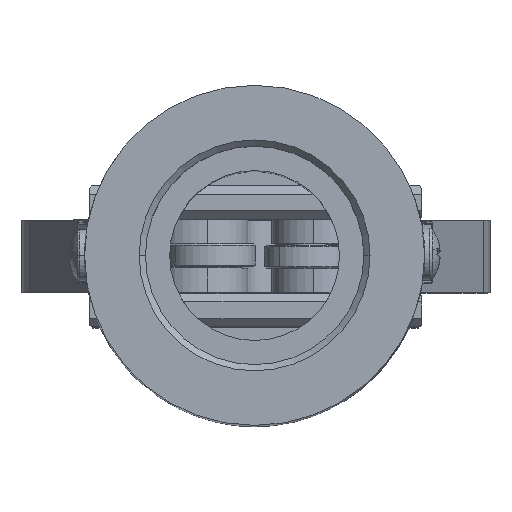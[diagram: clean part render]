
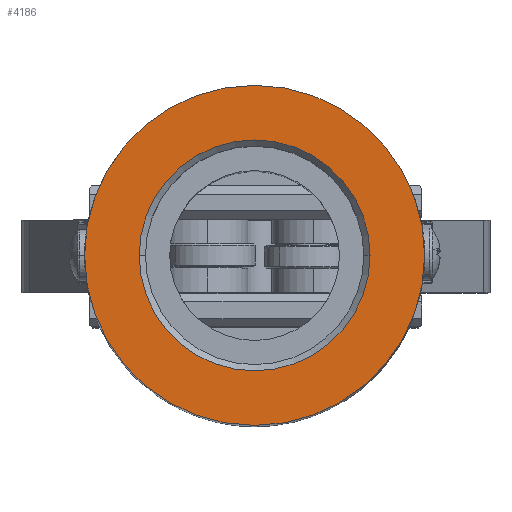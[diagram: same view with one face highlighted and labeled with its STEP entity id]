
A CAD part, top view. The second image highlights one B-rep face of the part: STEP entity #4186.
In plain terms, the highlighted planar face has unit normal (0, 0, 1).
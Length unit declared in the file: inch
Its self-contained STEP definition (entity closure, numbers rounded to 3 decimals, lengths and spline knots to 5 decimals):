
#67 = CARTESIAN_POINT ( 'NONE',  ( 0., 0., 4.156 ) ) ;
#68 = CIRCLE ( 'NONE', #76, 0.875 ) ;
#74 = DIRECTION ( 'NONE',  ( 1., 0., 0. ) ) ;
#75 = DIRECTION ( 'NONE',  ( 0., 0., 1. ) ) ;
#76 = AXIS2_PLACEMENT_3D ( 'NONE', #67, #75, #74 ) ;
#3564 = EDGE_CURVE ( 'NONE', #3981, #3985, #68, .T. ) ;
#3879 = VERTEX_POINT ( 'NONE', #9399 ) ;
#3894 = EDGE_CURVE ( 'NONE', #3879, #3913, #9494, .T. ) ;
#3913 = VERTEX_POINT ( 'NONE', #9468 ) ;
#3981 = VERTEX_POINT ( 'NONE', #9794 ) ;
#3985 = VERTEX_POINT ( 'NONE', #9802 ) ;
#4037 = EDGE_CURVE ( 'NONE', #3913, #3879, #8977, .T. ) ;
#4038 = EDGE_LOOP ( 'NONE', ( #4039, #4383 ) ) ;
#4039 = ORIENTED_EDGE ( 'NONE', *, *, #4100, .T. ) ;
#4100 = EDGE_CURVE ( 'NONE', #3985, #3981, #9466, .T. ) ;
#4186 = ADVANCED_FACE ( 'NONE', ( #9978, #9977 ), #9975, .T. ) ;
#4328 = EDGE_LOOP ( 'NONE', ( #4404, #4405 ) ) ;
#4383 = ORIENTED_EDGE ( 'NONE', *, *, #3564, .T. ) ;
#4404 = ORIENTED_EDGE ( 'NONE', *, *, #3894, .T. ) ;
#4405 = ORIENTED_EDGE ( 'NONE', *, *, #4037, .T. ) ;
#8947 = DIRECTION ( 'NONE',  ( 1., 0., 0. ) ) ;
#8948 = DIRECTION ( 'NONE',  ( 0., 0., -1. ) ) ;
#8949 = CARTESIAN_POINT ( 'NONE',  ( 0., 0., 4.156 ) ) ;
#8950 = AXIS2_PLACEMENT_3D ( 'NONE', #8949, #8948, #8947 ) ;
#8977 = CIRCLE ( 'NONE', #8950, 0.594 ) ;
#9399 = CARTESIAN_POINT ( 'NONE',  ( 0.594, 0., 4.156 ) ) ;
#9462 = DIRECTION ( 'NONE',  ( 1., 0., 0. ) ) ;
#9463 = DIRECTION ( 'NONE',  ( 0., 0., 1. ) ) ;
#9464 = CARTESIAN_POINT ( 'NONE',  ( 0., 0., 4.156 ) ) ;
#9465 = AXIS2_PLACEMENT_3D ( 'NONE', #9464, #9463, #9462 ) ;
#9466 = CIRCLE ( 'NONE', #9465, 0.875 ) ;
#9468 = CARTESIAN_POINT ( 'NONE',  ( -0.594, 0., 4.156 ) ) ;
#9490 = DIRECTION ( 'NONE',  ( 1., 0., 0. ) ) ;
#9491 = DIRECTION ( 'NONE',  ( 0., 0., -1. ) ) ;
#9492 = CARTESIAN_POINT ( 'NONE',  ( 0., 0., 4.156 ) ) ;
#9493 = AXIS2_PLACEMENT_3D ( 'NONE', #9492, #9491, #9490 ) ;
#9494 = CIRCLE ( 'NONE', #9493, 0.594 ) ;
#9794 = CARTESIAN_POINT ( 'NONE',  ( 0.875, 0., 4.156 ) ) ;
#9802 = CARTESIAN_POINT ( 'NONE',  ( -0.875, 0., 4.156 ) ) ;
#9949 = DIRECTION ( 'NONE',  ( 1., 0., 0. ) ) ;
#9950 = DIRECTION ( 'NONE',  ( 0., 0., 1. ) ) ;
#9951 = CARTESIAN_POINT ( 'NONE',  ( 0., 0., 4.156 ) ) ;
#9975 = PLANE ( 'NONE',  #9976 ) ;
#9976 = AXIS2_PLACEMENT_3D ( 'NONE', #9951, #9950, #9949 ) ;
#9977 = FACE_OUTER_BOUND ( 'NONE', #4038, .T. ) ;
#9978 = FACE_BOUND ( 'NONE', #4328, .T. ) ;
